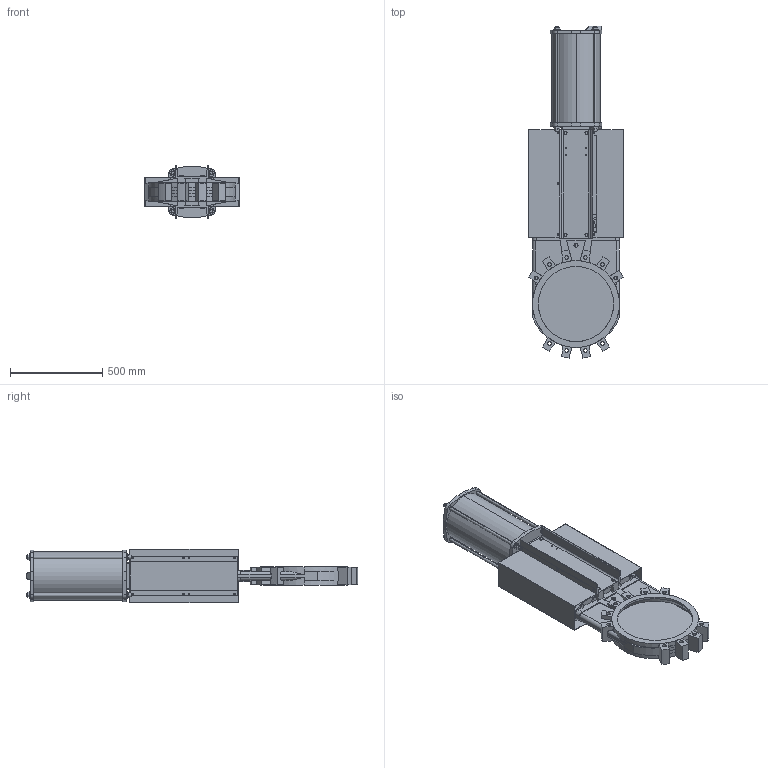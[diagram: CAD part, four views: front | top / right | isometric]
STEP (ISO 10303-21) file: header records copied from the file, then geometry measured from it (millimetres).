
FILE_DESCRIPTION (( 'STEP AP203' ), '1' );
FILE_NAME ('VG P DN400.STEP', '2010-01-29T06:19:23', ( 'farex' ), ( '' ), 'SwSTEP 2.0', 'SolidWorks 2009', '' );
FILE_SCHEMA (( 'CONFIG_CONTROL_DESIGN' ));
Length unit declared in the file: millimetre
Products named in the file (1): VG P DN400
Bounding box: 514 x 1801.13 x 290 mm (x, y, z)
Volume: 27036160.7 mm3; surface area: 4556635.2 mm2
Topology: 1 solids, 21 shells, 1352 faces, 3418 edges, 2234 vertices
Faces by surface type: plane 824, cylinder 404, cone 77, bspline 27, torus 20
Entity records: 43319 total; most frequent: CARTESIAN_POINT 10065, DIRECTION 6893, ORIENTED_EDGE 6836, EDGE_CURVE 3418, AXIS2_PLACEMENT_3D 2348, VERTEX_POINT 2234, VECTOR 2197, LINE 2197
